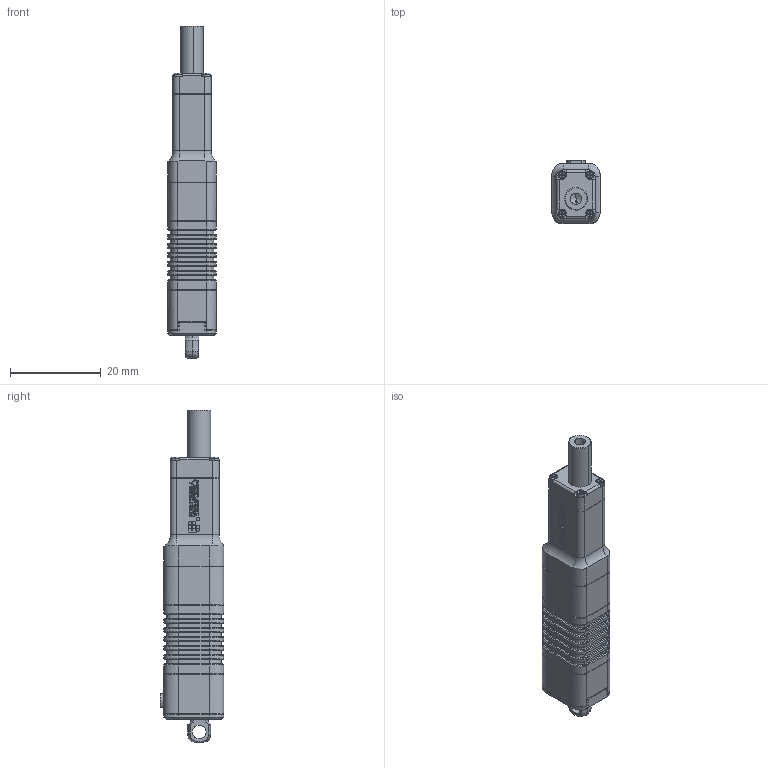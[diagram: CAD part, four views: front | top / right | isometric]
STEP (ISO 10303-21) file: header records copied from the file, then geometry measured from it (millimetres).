
FILE_DESCRIPTION (( 'STEP AP203' ), '1' );
FILE_NAME ('LA10--0x3D-1127.STEP', '2023-11-27T09:47:01', ( '' ), ( '' ), '' );
FILE_SCHEMA (( 'CONFIG_CONTROL_DESIGN' ));
Length unit declared in the file: millimetre
Products named in the file (4): 錨璃27^LA10--0x3D; ACBO-S30; exA820109-015祥凄詩杶奪; LA10--0x3D-1127
Assembly tree (3 placements, depth 2):
  LA10--0x3D-1127
    ACBO-S30
    exA820109-015祥凄詩杶奪
    錨璃27^LA10--0x3D
Bounding box: 10.8 x 14 x 73.2 mm (x, y, z)
Volume: 6837.3 mm3; surface area: 3667.5 mm2
Topology: 3 solids, 3 shells, 1607 faces, 4207 edges, 2717 vertices
Faces by surface type: plane 865, bspline 568, cylinder 123, torus 30, cone 21
Entity records: 61527 total; most frequent: CARTESIAN_POINT 25511, ORIENTED_EDGE 8410, DIRECTION 5441, EDGE_CURVE 4205, VERTEX_POINT 2717, VECTOR 2647, LINE 2647, EDGE_LOOP 1726
